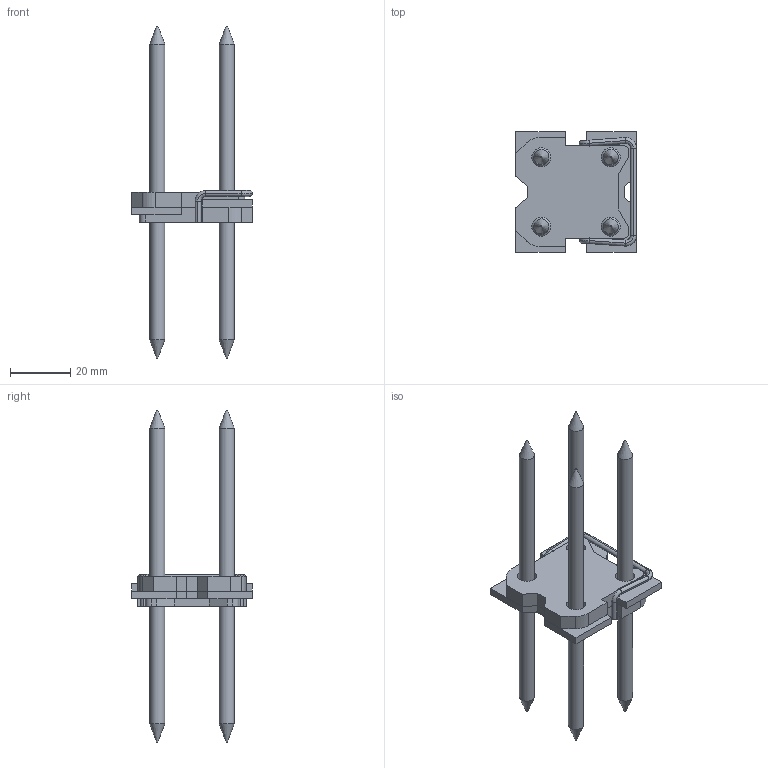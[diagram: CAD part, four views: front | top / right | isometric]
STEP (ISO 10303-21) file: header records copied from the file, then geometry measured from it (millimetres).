
FILE_DESCRIPTION(/* description */ ('Unknown'),/* implementation_level */ '2;1');
FILE_NAME(/* name */ 'RICON_40x40_EA_4xSK5x50_4xSK5x60',/* time_stamp */ '2022-03-08T11:36:11+01:00',/* author */ ('Unknown'),/* organization */ ('Unknown'),/* preprocessor_version */ 'ST-DEVELOPER v16.7',/* originating_system */ 'Solid Edge',/* authorisation */ 'Unknown');
FILE_SCHEMA (('AUTOMOTIVE_DESIGN {1 0 10303 214 3 1 1}'));
Length unit declared in the file: millimetre
Products named in the file (8): RICON_40x40_EA_4xSK5x50_4xSK5x60; RICON_40x40_SK5x50; RICON_40x40_reduzierte Darstellung; Z533_SK_Schraube_5x50_Ricon_reduzierte Darstellung; RICON_40x40_gegenteil_SK5x60; RICON_40x40_Gegenteil_reduzierte Darstellung; Z498_SK_Schraube_5x60_reduzierte Darstellung; sperre_RICON_40
Assembly tree (13 placements, depth 3):
  RICON_40x40_EA_4xSK5x50_4xSK5x60
    RICON_40x40_SK5x50
      RICON_40x40_reduzierte Darstellung
      Z533_SK_Schraube_5x50_Ricon_reduzierte Darstellung  x4
    RICON_40x40_gegenteil_SK5x60
      RICON_40x40_Gegenteil_reduzierte Darstellung
      Z498_SK_Schraube_5x60_reduzierte Darstellung  x4
    sperre_RICON_40
Bounding box: 40 x 40 x 110 mm (x, y, z)
Volume: 20538.6 mm3; surface area: 15856.6 mm2
Topology: 11 solids, 11 shells, 202 faces, 470 edges, 294 vertices
Faces by surface type: plane 102, cylinder 67, cone 17, bspline 8, torus 8
Full cylindrical faces by diameter (mm): 5 x8, 6 x4, 6.3 x8, 10 x4, 10.2 x4
Entity records: 5035 total; most frequent: CARTESIAN_POINT 930, DIRECTION 842, ORIENTED_EDGE 776, EDGE_CURVE 388, AXIS2_PLACEMENT_3D 288, LINE 266, VECTOR 266, VERTEX_POINT 256
